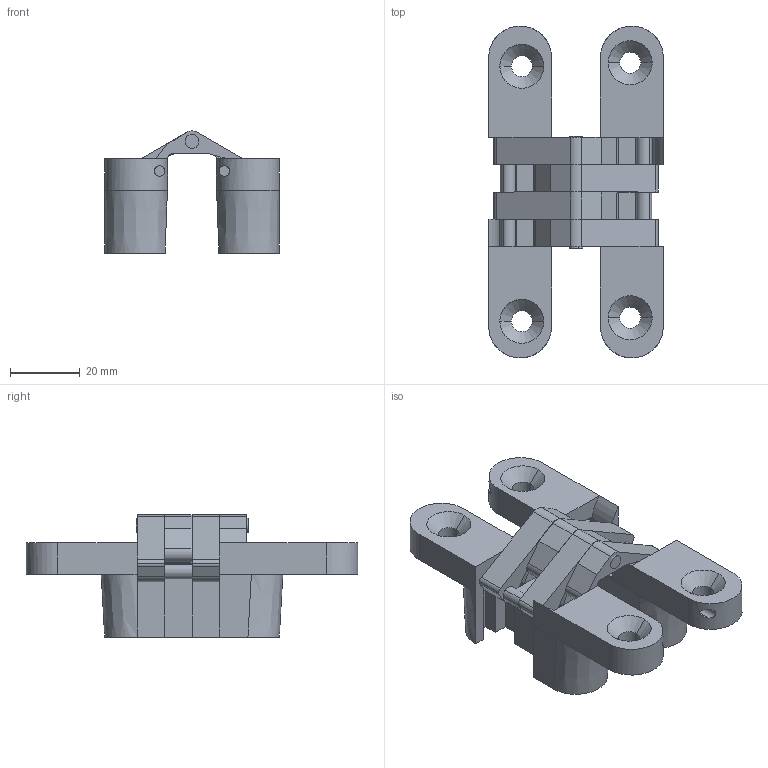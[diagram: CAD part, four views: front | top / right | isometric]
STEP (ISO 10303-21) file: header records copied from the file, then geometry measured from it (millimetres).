
FILE_DESCRIPTION (( 'STEP AP203' ), '1' );
FILE_NAME ('KH-50-4 3D ASS''Y.STEP', '2012-12-26T07:05:02', ( '' ), ( '' ), 'SwSTEP 2.0', 'SolidWorks 2010', '' );
FILE_SCHEMA (( 'CONFIG_CONTROL_DESIGN' ));
Length unit declared in the file: millimetre
Products named in the file (6): KH-50-4 3D ASS''Y; BODY; ARM; ARM PIN 3; ARM PIN 2; ARM PIN 1
Assembly tree (11 placements, depth 2):
  KH-50-4 3D ASS''Y
    ARM  x4
    ARM PIN 1  x2
    ARM PIN 2  x2
    BODY  x2
    ARM PIN 3
Bounding box: 50 x 95 x 34.99 mm (x, y, z)
Volume: 44296.9 mm3; surface area: 25775.8 mm2
Topology: 11 solids, 11 shells, 222 faces, 578 edges, 376 vertices
Faces by surface type: plane 114, cylinder 86, bspline 14, cone 8
Entity records: 3886 total; most frequent: CARTESIAN_POINT 844, DIRECTION 475, ORIENTED_EDGE 464, EDGE_CURVE 232, AXIS2_PLACEMENT_3D 166, VERTEX_POINT 150, VECTOR 143, LINE 143
